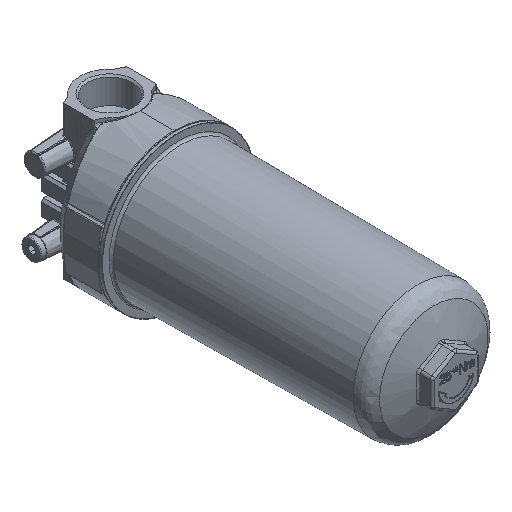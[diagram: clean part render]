
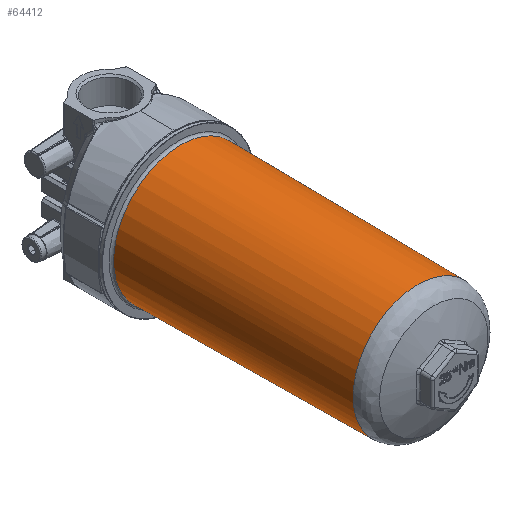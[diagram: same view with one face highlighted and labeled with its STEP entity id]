
A CAD part, isometric view. The second image highlights one B-rep face of the part: STEP entity #64412.
In plain terms, the highlighted free-form (B-spline) face has degree [2, 1] with [7, 2] control points.
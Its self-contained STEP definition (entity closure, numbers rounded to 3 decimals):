
#64325=CARTESIAN_POINT('V1647',(0.,-211.93,
   56.675));
#64326=VERTEX_POINT('V1647',#64325);
#64342=CARTESIAN_POINT('E3013',(0.,-211.93,
   56.675));
#64343=CARTESIAN_POINT('E3013',(98.164,
   -211.93,56.675));
#64344=CARTESIAN_POINT('E3013',(49.082,
   -211.93,-28.337));
#64345=CARTESIAN_POINT('E3013',(0.,-211.93,
   -113.35));
#64346=CARTESIAN_POINT('E3013',(-49.082,
   -211.93,-28.337));
#64347=CARTESIAN_POINT('E3013',(-98.164,
   -211.93,56.675));
#64348=CARTESIAN_POINT('E3013',(0.,-211.93,
   56.675));
#64356=(BOUNDED_CURVE()B_SPLINE_CURVE(2,(#64342,#64343,#64344,
   #64345,#64346,#64347,#64348),.CIRCULAR_ARC.,.T.,.U.)
   B_SPLINE_CURVE_WITH_KNOTS((3,2,2,3),(0.0,0.963,
   1.926,2.889),.UNSPECIFIED.)CURVE()
   GEOMETRIC_REPRESENTATION_ITEM()RATIONAL_B_SPLINE_CURVE((1.0,
   0.5,1.0,0.5,1.0,0.5,1.0)
   )REPRESENTATION_ITEM('E3013'));
#64357=EDGE_CURVE('E3013',#64326,#64326,#64356,.T.);
#64362=CARTESIAN_POINT('F1262',(0.,-211.93,
   56.675));
#64363=CARTESIAN_POINT('F1262',(98.164,
   -211.93,56.675));
#64364=CARTESIAN_POINT('F1262',(49.082,
   -211.93,-28.337));
#64365=CARTESIAN_POINT('F1262',(0.,-211.93,
   -113.35));
#64366=CARTESIAN_POINT('F1262',(-49.082,
   -211.93,-28.337));
#64367=CARTESIAN_POINT('F1262',(-98.164,
   -211.93,56.675));
#64368=CARTESIAN_POINT('F1262',(0.,-211.93,
   56.675));
#64369=CARTESIAN_POINT('F1262',(0.,-4.783,
   58.483));
#64370=CARTESIAN_POINT('F1262',(101.295,
   -4.783,58.483));
#64371=CARTESIAN_POINT('F1262',(50.648,
   -4.783,-29.241));
#64372=CARTESIAN_POINT('F1262',(0.,-4.783,
   -116.965));
#64373=CARTESIAN_POINT('F1262',(-50.648,
   -4.783,-29.241));
#64374=CARTESIAN_POINT('F1262',(-101.295,
   -4.783,58.483));
#64375=CARTESIAN_POINT('F1262',(0.,-4.783,
   58.483));
#64383=(BOUNDED_SURFACE()B_SPLINE_SURFACE(2,1,((#64362,#64369),(
   #64363,#64370),(#64364,#64371),(#64365,#64372),(#64366,
   #64373),(#64367,#64374),(#64368,#64375)),.CONICAL_SURF.,.T.,
   .F.,.U.)B_SPLINE_SURFACE_WITH_KNOTS((3,2,2,3),(2,2),(0.0,
   0.963,1.926,2.889),(0.0,1.0),
   .UNSPECIFIED.)GEOMETRIC_REPRESENTATION_ITEM()
   RATIONAL_B_SPLINE_SURFACE(((1.0,1.0),(0.5,
   0.5),(1.0,1.0),(0.5,
   0.5),(1.0,1.0),(0.5,
   0.5),(1.0,1.0)))REPRESENTATION_ITEM('F1262')
   SURFACE());
#64384=CARTESIAN_POINT('V1646',(0.,-4.783,
   58.483));
#64385=VERTEX_POINT('V1646',#64384);
#64386=CARTESIAN_POINT('E3012',(0.,-4.783,
   58.483));
#64387=CARTESIAN_POINT('E3012',(0.,-211.93,
   56.675));
#64388=QUASI_UNIFORM_CURVE('E3012',1,(#64386,#64387),.POLYLINE_FORM.,
   .F.,.U.);
#64389=EDGE_CURVE('E3012',#64385,#64326,#64388,.T.);
#64390=ORIENTED_EDGE('E3012',*,*,#64389,.T.);
#64391=ORIENTED_EDGE('F1263',*,*,#64357,.T.);
#64392=ORIENTED_EDGE('E3012',*,*,#64389,.F.);
#64393=CARTESIAN_POINT('E3011',(0.,-4.783,
   58.483));
#64394=CARTESIAN_POINT('E3011',(-101.295,
   -4.783,58.483));
#64395=CARTESIAN_POINT('E3011',(-50.648,
   -4.783,-29.241));
#64396=CARTESIAN_POINT('E3011',(0.,-4.783,
   -116.965));
#64397=CARTESIAN_POINT('E3011',(50.648,
   -4.783,-29.241));
#64398=CARTESIAN_POINT('E3011',(101.295,
   -4.783,58.483));
#64399=CARTESIAN_POINT('E3011',(0.,-4.783,
   58.483));
#64407=(BOUNDED_CURVE()B_SPLINE_CURVE(2,(#64393,#64394,#64395,
   #64396,#64397,#64398,#64399),.CIRCULAR_ARC.,.T.,.U.)
   B_SPLINE_CURVE_WITH_KNOTS((3,2,2,3),(0.0,51.609,
   103.217,154.826),.UNSPECIFIED.)CURVE()
   GEOMETRIC_REPRESENTATION_ITEM()RATIONAL_B_SPLINE_CURVE((1.0,
   0.5,1.0,0.5,1.0,0.5,1.0)
   )REPRESENTATION_ITEM('E3011'));
#64408=EDGE_CURVE('E3011',#64385,#64385,#64407,.T.);
#64409=ORIENTED_EDGE('E3011',*,*,#64408,.T.);
#64410=EDGE_LOOP('F1262',(#64390,#64391,#64392,#64409));
#64411=FACE_OUTER_BOUND('F1262',#64410,.T.);
#64412=ADVANCED_FACE('F1262',(#64411),#64383,.T.);
